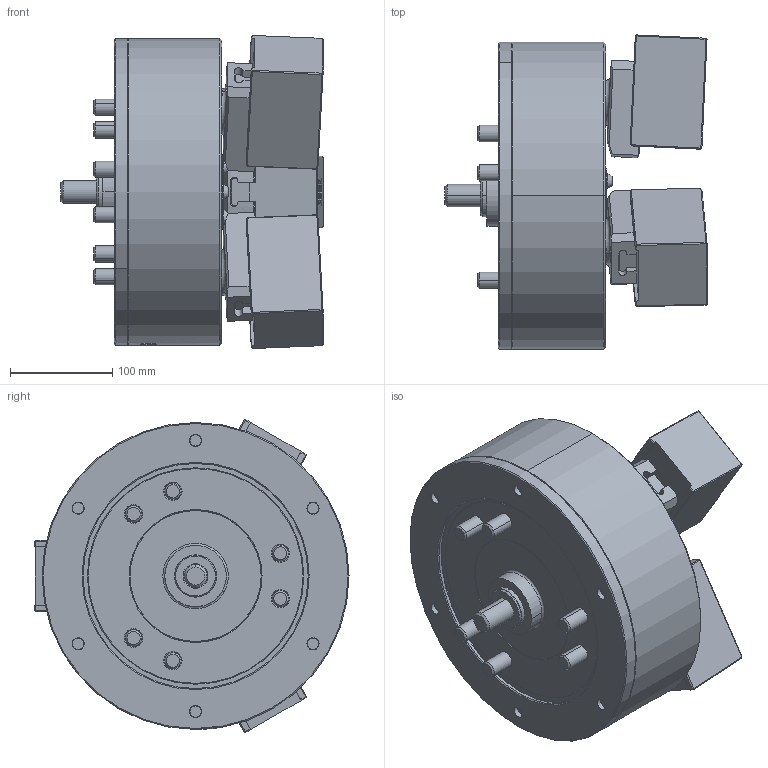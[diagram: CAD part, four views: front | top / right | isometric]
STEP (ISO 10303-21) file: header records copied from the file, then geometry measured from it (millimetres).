
FILE_DESCRIPTION (( 'STEP AP214' ), '1' );
FILE_NAME ('PW-12_UC_ID.STEP', '2025-08-18T06:59:30', ( '' ), ( '' ), 'SwSTEP 2.0', 'SolidWorks 2022', '' );
FILE_SCHEMA (( 'AUTOMOTIVE_DESIGN' ));
Length unit declared in the file: millimetre
Products named in the file (6): PW-12_UC_ID; 61P420193; 0030116105; 61P323264; 結合_ID; 0030116025
Assembly tree (19 placements, depth 2):
  PW-12_UC_ID
    61P323264  x3
    61P420193  x3
    0030116025  x6
    0030116105  x6
    結合_ID
Bounding box: 256.15 x 307.01 x 306 mm (x, y, z)
Volume: 9048441 mm3; surface area: 605086.7 mm2
Topology: 19 solids, 21 shells, 1632 faces, 4024 edges, 2550 vertices
Faces by surface type: plane 814, cone 334, cylinder 255, bspline 185, torus 36, sphere 8
Entity records: 46919 total; most frequent: CARTESIAN_POINT 17227, ORIENTED_EDGE 6424, DIRECTION 5417, EDGE_CURVE 3212, VERTEX_POINT 2060, AXIS2_PLACEMENT_3D 1816, VECTOR 1785, LINE 1785
